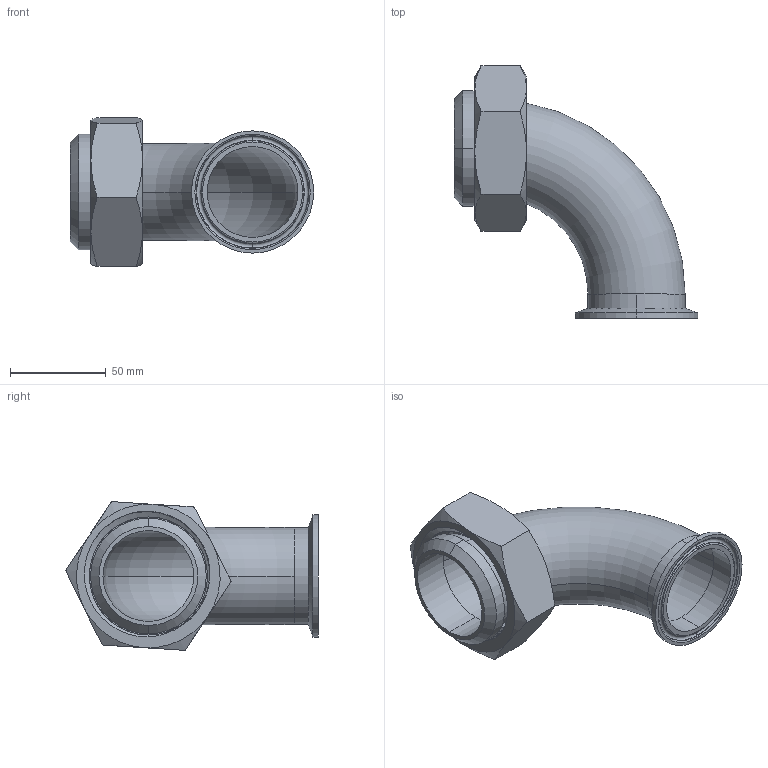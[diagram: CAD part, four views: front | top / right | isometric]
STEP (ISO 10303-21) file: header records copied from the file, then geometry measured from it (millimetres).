
FILE_DESCRIPTION (( 'STEP AP203' ), '1' );
FILE_NAME ('EG2FPR2.0.STEP', '2018-05-07T12:58:04', ( 'vneprd' ), ( 'Microsoft' ), 'SwSTEP 2.0', 'SolidWorks 2014', '' );
FILE_SCHEMA (( 'CONFIG_CONTROL_DESIGN' ));
Length unit declared in the file: inch
Products named in the file (5): 13H2.0; EG2FPR2.0; 14PR2.0; 2WCL2.0; EG2CS2.0
Assembly tree (4 placements, depth 2):
  EG2FPR2.0
    14PR2.0
    2WCL2.0
    EG2CS2.0
    13H2.0
Bounding box: 127.25 x 132.19 x 77.79 mm (x, y, z)
Volume: 94730.7 mm3; surface area: 72573 mm2
Topology: 4 solids, 4 shells, 101 faces, 237 edges, 148 vertices
Faces by surface type: plane 32, cylinder 29, cone 26, torus 10, bspline 4
Entity records: 6638 total; most frequent: CARTESIAN_POINT 3854, DIRECTION 484, ORIENTED_EDGE 474, EDGE_CURVE 237, AXIS2_PLACEMENT_3D 204, VERTEX_POINT 148, EDGE_LOOP 113, FACE_OUTER_BOUND 101
